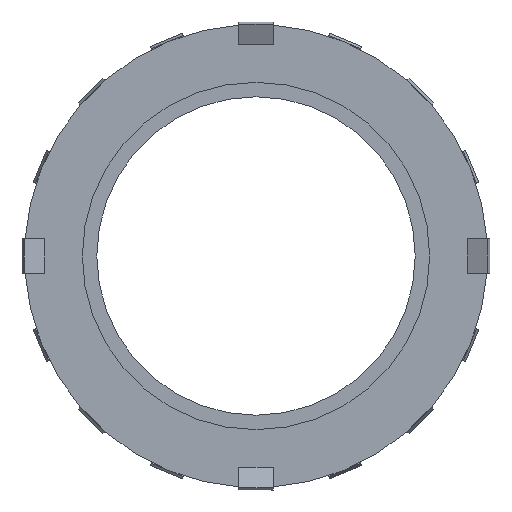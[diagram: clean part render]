
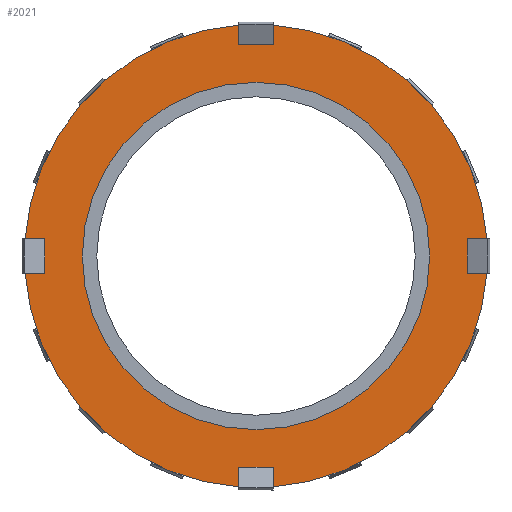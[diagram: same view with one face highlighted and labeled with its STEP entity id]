
A CAD part, left-side view. The second image highlights one B-rep face of the part: STEP entity #2021.
In plain terms, the highlighted planar face has unit normal (-1, 0, 0).
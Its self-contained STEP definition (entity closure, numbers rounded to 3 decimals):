
#859 = VERTEX_POINT ( 'NONE', #3698 ) ;
#1502 = EDGE_CURVE ( 'NONE', #859, #1939, #4722, .T. ) ;
#1909 = VERTEX_POINT ( 'NONE', #5380 ) ;
#1911 = EDGE_CURVE ( 'NONE', #1909, #1912, #5378, .T. ) ;
#1912 = VERTEX_POINT ( 'NONE', #5425 ) ;
#1937 = EDGE_CURVE ( 'NONE', #1938, #1939, #5479, .T. ) ;
#1938 = VERTEX_POINT ( 'NONE', #5474 ) ;
#1939 = VERTEX_POINT ( 'NONE', #5473 ) ;
#1966 = EDGE_CURVE ( 'NONE', #6746, #6744, #5533, .T. ) ;
#1981 = EDGE_CURVE ( 'NONE', #1912, #1909, #5555, .T. ) ;
#1992 = EDGE_CURVE ( 'NONE', #1993, #1994, #5589, .T. ) ;
#1993 = VERTEX_POINT ( 'NONE', #5584 ) ;
#1994 = VERTEX_POINT ( 'NONE', #5583 ) ;
#2007 = EDGE_CURVE ( 'NONE', #2008, #6744, #5623, .T. ) ;
#2008 = VERTEX_POINT ( 'NONE', #5613 ) ;
#2009 = ORIENTED_EDGE ( 'NONE', *, *, #2010, .F. ) ;
#2010 = EDGE_CURVE ( 'NONE', #2011, #2008, #5612, .T. ) ;
#2011 = VERTEX_POINT ( 'NONE', #5608 ) ;
#2012 = ORIENTED_EDGE ( 'NONE', *, *, #2013, .F. ) ;
#2013 = EDGE_CURVE ( 'NONE', #1938, #2011, #5607, .T. ) ;
#2014 = ORIENTED_EDGE ( 'NONE', *, *, #1937, .T. ) ;
#2015 = ORIENTED_EDGE ( 'NONE', *, *, #1502, .F. ) ;
#2017 = EDGE_CURVE ( 'NONE', #2018, #2044, #5603, .T. ) ;
#2018 = VERTEX_POINT ( 'NONE', #5655 ) ;
#2021 = ADVANCED_FACE ( 'NONE', ( #5650, #5649 ), #5648, .F. ) ;
#2022 = EDGE_LOOP ( 'NONE', ( #2023, #2024 ) ) ;
#2023 = ORIENTED_EDGE ( 'NONE', *, *, #1981, .F. ) ;
#2024 = ORIENTED_EDGE ( 'NONE', *, *, #1911, .F. ) ;
#2025 = EDGE_LOOP ( 'NONE', ( #2026, #2030, #2089, #2090, #2009, #2012, #2014, #2015, #2073, #2077, #2080, #2081, #2084, #2087, #2059, #2060 ) ) ;
#2026 = ORIENTED_EDGE ( 'NONE', *, *, #2027, .F. ) ;
#2027 = EDGE_CURVE ( 'NONE', #2028, #2029, #5643, .T. ) ;
#2028 = VERTEX_POINT ( 'NONE', #5639 ) ;
#2029 = VERTEX_POINT ( 'NONE', #5638 ) ;
#2030 = ORIENTED_EDGE ( 'NONE', *, *, #2088, .F. ) ;
#2044 = VERTEX_POINT ( 'NONE', #5666 ) ;
#2057 = EDGE_CURVE ( 'NONE', #2018, #2086, #5716, .T. ) ;
#2059 = ORIENTED_EDGE ( 'NONE', *, *, #2017, .T. ) ;
#2060 = ORIENTED_EDGE ( 'NONE', *, *, #2061, .F. ) ;
#2061 = EDGE_CURVE ( 'NONE', #2029, #2044, #5712, .T. ) ;
#2073 = ORIENTED_EDGE ( 'NONE', *, *, #2075, .F. ) ;
#2075 = EDGE_CURVE ( 'NONE', #2076, #859, #5692, .T. ) ;
#2076 = VERTEX_POINT ( 'NONE', #5687 ) ;
#2077 = ORIENTED_EDGE ( 'NONE', *, *, #2079, .F. ) ;
#2079 = EDGE_CURVE ( 'NONE', #1993, #2076, #5750, .T. ) ;
#2080 = ORIENTED_EDGE ( 'NONE', *, *, #1992, .T. ) ;
#2081 = ORIENTED_EDGE ( 'NONE', *, *, #2082, .F. ) ;
#2082 = EDGE_CURVE ( 'NONE', #2083, #1994, #5746, .T. ) ;
#2083 = VERTEX_POINT ( 'NONE', #5742 ) ;
#2084 = ORIENTED_EDGE ( 'NONE', *, *, #2085, .F. ) ;
#2085 = EDGE_CURVE ( 'NONE', #2086, #2083, #5741, .T. ) ;
#2086 = VERTEX_POINT ( 'NONE', #5737 ) ;
#2087 = ORIENTED_EDGE ( 'NONE', *, *, #2057, .F. ) ;
#2088 = EDGE_CURVE ( 'NONE', #6746, #2028, #5736, .T. ) ;
#2089 = ORIENTED_EDGE ( 'NONE', *, *, #1966, .T. ) ;
#2090 = ORIENTED_EDGE ( 'NONE', *, *, #2007, .F. ) ;
#3698 = CARTESIAN_POINT ( 'NONE',  ( 4., -3., 36.5 ) ) ;
#4719 = DIRECTION ( 'NONE',  ( 0., 0., 1. ) ) ;
#4720 = VECTOR ( 'NONE', #4719, 1000. ) ;
#4721 = CARTESIAN_POINT ( 'NONE',  ( 4., -3., 39.887 ) ) ;
#4722 = LINE ( 'NONE', #4721, #4720 ) ;
#5374 = DIRECTION ( 'NONE',  ( 0., 0., 1. ) ) ;
#5375 = DIRECTION ( 'NONE',  ( -1., 0., 0. ) ) ;
#5376 = CARTESIAN_POINT ( 'NONE',  ( 4., 0., 0. ) ) ;
#5377 = AXIS2_PLACEMENT_3D ( 'NONE', #5376, #5375, #5374 ) ;
#5378 = CIRCLE ( 'NONE', #5377, 30. ) ;
#5380 = CARTESIAN_POINT ( 'NONE',  ( 4., 0., -30. ) ) ;
#5425 = CARTESIAN_POINT ( 'NONE',  ( 4., 0., 30. ) ) ;
#5473 = CARTESIAN_POINT ( 'NONE',  ( 4., -3., 39.887 ) ) ;
#5474 = CARTESIAN_POINT ( 'NONE',  ( 4., -39.887, 3. ) ) ;
#5475 = DIRECTION ( 'NONE',  ( 0., 0., 1. ) ) ;
#5476 = DIRECTION ( 'NONE',  ( -1., 0., 0. ) ) ;
#5477 = CARTESIAN_POINT ( 'NONE',  ( 4., 0., 0. ) ) ;
#5478 = AXIS2_PLACEMENT_3D ( 'NONE', #5477, #5476, #5475 ) ;
#5479 = CIRCLE ( 'NONE', #5478, 40. ) ;
#5483 = CARTESIAN_POINT ( 'NONE',  ( 4., 0., 0. ) ) ;
#5530 = DIRECTION ( 'NONE',  ( 0., 0., 1. ) ) ;
#5531 = DIRECTION ( 'NONE',  ( -1., 0., 0. ) ) ;
#5532 = AXIS2_PLACEMENT_3D ( 'NONE', #5483, #5531, #5530 ) ;
#5533 = CIRCLE ( 'NONE', #5532, 40. ) ;
#5552 = DIRECTION ( 'NONE',  ( 0., 0., 1. ) ) ;
#5553 = DIRECTION ( 'NONE',  ( -1., 0., 0. ) ) ;
#5554 = AXIS2_PLACEMENT_3D ( 'NONE', #5560, #5553, #5552 ) ;
#5555 = CIRCLE ( 'NONE', #5554, 30. ) ;
#5560 = CARTESIAN_POINT ( 'NONE',  ( 4., 0., 0. ) ) ;
#5583 = CARTESIAN_POINT ( 'NONE',  ( 4., 39.887, 3. ) ) ;
#5584 = CARTESIAN_POINT ( 'NONE',  ( 4., 3., 39.887 ) ) ;
#5585 = DIRECTION ( 'NONE',  ( 0., 0., 1. ) ) ;
#5586 = DIRECTION ( 'NONE',  ( -1., 0., 0. ) ) ;
#5587 = CARTESIAN_POINT ( 'NONE',  ( 4., 0., 0. ) ) ;
#5588 = AXIS2_PLACEMENT_3D ( 'NONE', #5587, #5586, #5585 ) ;
#5589 = CIRCLE ( 'NONE', #5588, 40. ) ;
#5599 = DIRECTION ( 'NONE',  ( 0., 0., 1. ) ) ;
#5600 = DIRECTION ( 'NONE',  ( -1., 0., 0. ) ) ;
#5601 = CARTESIAN_POINT ( 'NONE',  ( 4., 0., 0. ) ) ;
#5602 = AXIS2_PLACEMENT_3D ( 'NONE', #5601, #5600, #5599 ) ;
#5603 = CIRCLE ( 'NONE', #5602, 40. ) ;
#5604 = DIRECTION ( 'NONE',  ( 0., 1., 0. ) ) ;
#5605 = VECTOR ( 'NONE', #5604, 1000. ) ;
#5606 = CARTESIAN_POINT ( 'NONE',  ( 4., -39.887, 3. ) ) ;
#5607 = LINE ( 'NONE', #5606, #5605 ) ;
#5608 = CARTESIAN_POINT ( 'NONE',  ( 4., -36.5, 3. ) ) ;
#5609 = DIRECTION ( 'NONE',  ( 0., 0., -1. ) ) ;
#5610 = VECTOR ( 'NONE', #5609, 1000. ) ;
#5611 = CARTESIAN_POINT ( 'NONE',  ( 4., -36.5, 3. ) ) ;
#5612 = LINE ( 'NONE', #5611, #5610 ) ;
#5613 = CARTESIAN_POINT ( 'NONE',  ( 4., -36.5, -3. ) ) ;
#5614 = DIRECTION ( 'NONE',  ( 0., -1., 0. ) ) ;
#5615 = VECTOR ( 'NONE', #5614, 1000. ) ;
#5623 = LINE ( 'NONE', #5626, #5615 ) ;
#5626 = CARTESIAN_POINT ( 'NONE',  ( 4., -39.887, -3. ) ) ;
#5638 = CARTESIAN_POINT ( 'NONE',  ( 4., 3., -36.5 ) ) ;
#5639 = CARTESIAN_POINT ( 'NONE',  ( 4., -3., -36.5 ) ) ;
#5640 = DIRECTION ( 'NONE',  ( 0., 1., 0. ) ) ;
#5641 = VECTOR ( 'NONE', #5640, 1000. ) ;
#5642 = CARTESIAN_POINT ( 'NONE',  ( 4., -3., -36.5 ) ) ;
#5643 = LINE ( 'NONE', #5642, #5641 ) ;
#5644 = DIRECTION ( 'NONE',  ( 0., 0., -1. ) ) ;
#5645 = DIRECTION ( 'NONE',  ( 1., 0., 0. ) ) ;
#5646 = CARTESIAN_POINT ( 'NONE',  ( 4., 40., 0. ) ) ;
#5647 = AXIS2_PLACEMENT_3D ( 'NONE', #5646, #5645, #5644 ) ;
#5648 = PLANE ( 'NONE',  #5647 ) ;
#5649 = FACE_OUTER_BOUND ( 'NONE', #2025, .T. ) ;
#5650 = FACE_BOUND ( 'NONE', #2022, .T. ) ;
#5655 = CARTESIAN_POINT ( 'NONE',  ( 4., 39.887, -3. ) ) ;
#5666 = CARTESIAN_POINT ( 'NONE',  ( 4., 3., -39.887 ) ) ;
#5687 = CARTESIAN_POINT ( 'NONE',  ( 4., 3., 36.5 ) ) ;
#5689 = DIRECTION ( 'NONE',  ( 0., -1., 0. ) ) ;
#5690 = VECTOR ( 'NONE', #5689, 1000. ) ;
#5691 = CARTESIAN_POINT ( 'NONE',  ( 4., 3., 36.5 ) ) ;
#5692 = LINE ( 'NONE', #5691, #5690 ) ;
#5709 = DIRECTION ( 'NONE',  ( 0., 0., -1. ) ) ;
#5710 = VECTOR ( 'NONE', #5709, 1000. ) ;
#5711 = CARTESIAN_POINT ( 'NONE',  ( 4., 3., -39.887 ) ) ;
#5712 = LINE ( 'NONE', #5711, #5710 ) ;
#5713 = DIRECTION ( 'NONE',  ( 0., -1., 0. ) ) ;
#5714 = VECTOR ( 'NONE', #5713, 1000. ) ;
#5715 = CARTESIAN_POINT ( 'NONE',  ( 4., 39.887, -3. ) ) ;
#5716 = LINE ( 'NONE', #5715, #5714 ) ;
#5733 = DIRECTION ( 'NONE',  ( 0., 0., 1. ) ) ;
#5734 = VECTOR ( 'NONE', #5733, 1000. ) ;
#5735 = CARTESIAN_POINT ( 'NONE',  ( 4., -3., -39.887 ) ) ;
#5736 = LINE ( 'NONE', #5735, #5734 ) ;
#5737 = CARTESIAN_POINT ( 'NONE',  ( 4., 36.5, -3. ) ) ;
#5738 = DIRECTION ( 'NONE',  ( 0., 0., 1. ) ) ;
#5739 = VECTOR ( 'NONE', #5738, 1000. ) ;
#5740 = CARTESIAN_POINT ( 'NONE',  ( 4., 36.5, -3. ) ) ;
#5741 = LINE ( 'NONE', #5740, #5739 ) ;
#5742 = CARTESIAN_POINT ( 'NONE',  ( 4., 36.5, 3. ) ) ;
#5743 = DIRECTION ( 'NONE',  ( 0., 1., 0. ) ) ;
#5744 = VECTOR ( 'NONE', #5743, 1000. ) ;
#5745 = CARTESIAN_POINT ( 'NONE',  ( 4., 39.887, 3. ) ) ;
#5746 = LINE ( 'NONE', #5745, #5744 ) ;
#5747 = DIRECTION ( 'NONE',  ( 0., 0., -1. ) ) ;
#5748 = VECTOR ( 'NONE', #5747, 1000. ) ;
#5749 = CARTESIAN_POINT ( 'NONE',  ( 4., 3., 39.887 ) ) ;
#5750 = LINE ( 'NONE', #5749, #5748 ) ;
#6081 = CARTESIAN_POINT ( 'NONE',  ( 4., -3., -39.887 ) ) ;
#6086 = CARTESIAN_POINT ( 'NONE',  ( 4., -39.887, -3. ) ) ;
#6744 = VERTEX_POINT ( 'NONE', #6086 ) ;
#6746 = VERTEX_POINT ( 'NONE', #6081 ) ;
